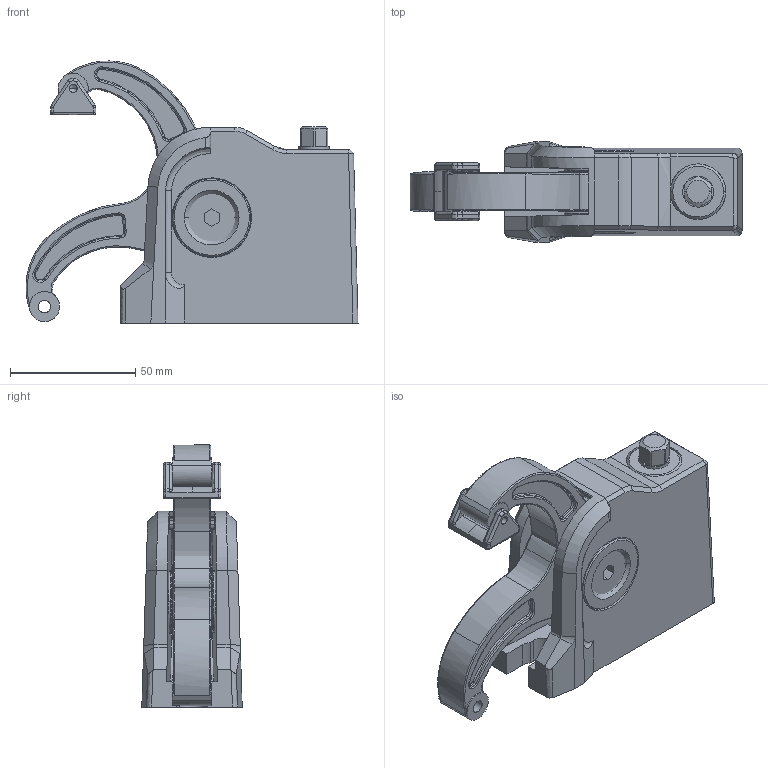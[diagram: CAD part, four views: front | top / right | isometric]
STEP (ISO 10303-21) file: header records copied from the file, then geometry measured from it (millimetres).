
FILE_DESCRIPTION( ( 'STEP AP214' ), '1' );
FILE_NAME( 'Y:/CAD_Daten_Platzhalter/BAS-C_BAS-CB/BAS-C9-4/BAS-C9-4.stp', ' ', ( ' ' ), ( ' ' ), 'PSStep 11.0', ' ', ' ' );
FILE_SCHEMA( ( 'AUTOMOTIVE_DESIGN { 1 0 10303 214 1 1 1 1 }' ) );
Length unit declared in the file: metre
Products named in the file (10): 1; 2; 3; 4; 5; 6; 7; 8; 9; 10
Bounding box: 132.32 x 40 x 104.45 mm (x, y, z)
Volume: 228963.4 mm3; surface area: 73719.5 mm2
Topology: 10 solids, 10 shells, 536 faces, 1251 edges, 737 vertices
Faces by surface type: bspline 536
Entity records: 33462 total; most frequent: CARTESIAN_POINT 21956, ORIENTED_EDGE 2466, EDGE_CURVE 1233, B_SPLINE_CURVE_WITH_KNOTS 757, VERTEX_POINT 737, EDGE_LOOP 580, STYLED_ITEM 536, PRESENTATION_STYLE_ASSIGNMENT 536
